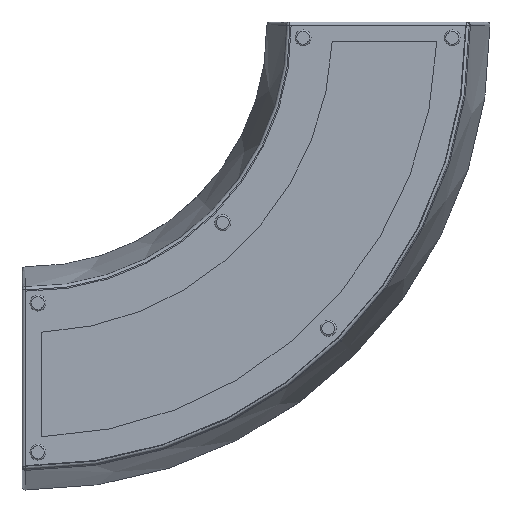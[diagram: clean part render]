
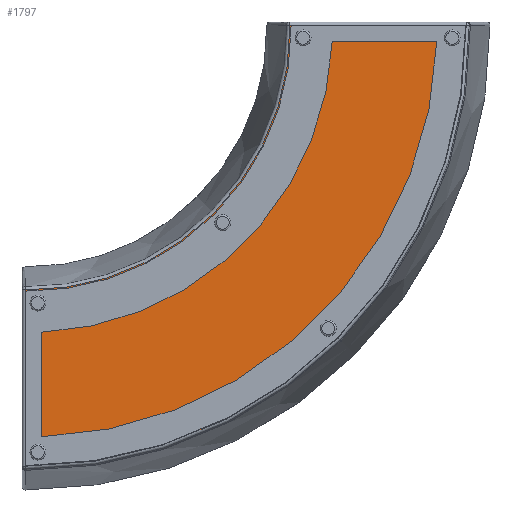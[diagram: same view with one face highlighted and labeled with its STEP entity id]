
A CAD part, front view. The second image highlights one B-rep face of the part: STEP entity #1797.
In plain terms, the highlighted planar face has unit normal (0, -1, 0).
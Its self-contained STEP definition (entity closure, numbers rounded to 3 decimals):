
#144=CIRCLE('',#2073,821.388);
#149=CIRCLE('',#2080,1375.7);
#440=FACE_OUTER_BOUND('',#557,.T.);
#557=EDGE_LOOP('',(#1538,#1539,#1540,#1541));
#687=LINE('',#3408,#796);
#692=LINE('',#3689,#801);
#796=VECTOR('',#2575,10.);
#801=VECTOR('',#2604,10.);
#886=VERTEX_POINT('',#3092);
#891=VERTEX_POINT('',#3102);
#892=VERTEX_POINT('',#3106);
#899=VERTEX_POINT('',#3121);
#1109=EDGE_CURVE('',#892,#899,#687,.T.);
#1112=EDGE_CURVE('',#899,#891,#144,.T.);
#1129=EDGE_CURVE('',#886,#892,#149,.T.);
#1132=EDGE_CURVE('',#891,#886,#692,.T.);
#1538=ORIENTED_EDGE('',*,*,#1109,.F.);
#1539=ORIENTED_EDGE('',*,*,#1129,.F.);
#1540=ORIENTED_EDGE('',*,*,#1132,.F.);
#1541=ORIENTED_EDGE('',*,*,#1112,.F.);
#1703=PLANE('',#2093);
#1797=ADVANCED_FACE('',(#440),#1703,.T.);
#2073=AXIS2_PLACEMENT_3D('',#3412,#2581,#2582);
#2080=AXIS2_PLACEMENT_3D('',#3685,#2597,#2598);
#2093=AXIS2_PLACEMENT_3D('',#3700,#2625,#2626);
#2575=DIRECTION('',(0.,0.,1.));
#2581=DIRECTION('center_axis',(0.,-1.,0.));
#2582=DIRECTION('ref_axis',(0.707,0.,-0.707));
#2597=DIRECTION('center_axis',(0.,1.,0.));
#2598=DIRECTION('ref_axis',(0.707,0.,-0.707));
#2604=DIRECTION('',(1.,0.,0.));
#2625=DIRECTION('center_axis',(0.,-1.,0.));
#2626=DIRECTION('ref_axis',(0.,0.,-1.));
#3092=CARTESIAN_POINT('',(1384.656,19.,2.));
#3102=CARTESIAN_POINT('',(830.314,19.,2.));
#3106=CARTESIAN_POINT('',(-2.,19.,-1384.656));
#3121=CARTESIAN_POINT('',(-2.,19.,-830.314));
#3408=CARTESIAN_POINT('',(-2.,19.,-965.346));
#3412=CARTESIAN_POINT('Origin',(9.,19.,-9.));
#3685=CARTESIAN_POINT('Origin',(9.,19.,-9.));
#3689=CARTESIAN_POINT('',(558.759,19.,2.));
#3700=CARTESIAN_POINT('Origin',(9.,19.,-822.173));
